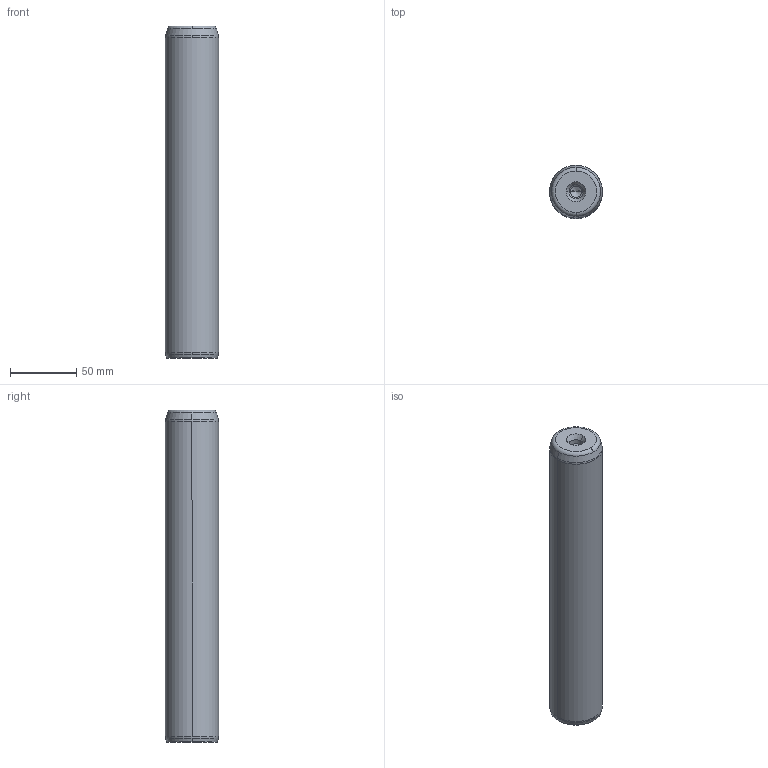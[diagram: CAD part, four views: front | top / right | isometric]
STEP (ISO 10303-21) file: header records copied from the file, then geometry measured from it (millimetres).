
FILE_DESCRIPTION((''),'2;1');
FILE_NAME('P10_040_250.stp','2008-12-23T15:24:37',(''),(''),'Mechanical Desktop 2009','Mechanical Desktop 2009',', , ');
FILE_SCHEMA(('CONFIG_CONTROL_DESIGN'));
Length unit declared in the file: millimetre
Products named in the file (5): Product; ProductAA; blmdl1; ProductA; blmdl1A
Assembly tree (2 placements, depth 3):
  Product
    ProductAA
      blmdl1
  ProductA
  blmdl1A
Bounding box: 40 x 40 x 250 mm (x, y, z)
Volume: 310655.2 mm3; surface area: 34259.7 mm2
Topology: 1 solids, 1 shells, 26 faces, 66 edges, 41 vertices
Faces by surface type: cone 10, torus 8, cylinder 6, plane 2
Entity records: 1012 total; most frequent: DIRECTION 170, CARTESIAN_POINT 134, ORIENTED_EDGE 128, AXIS2_PLACEMENT_3D 77, EDGE_CURVE 64, CIRCLE 48, VERTEX_POINT 41, EDGE_LOOP 27
